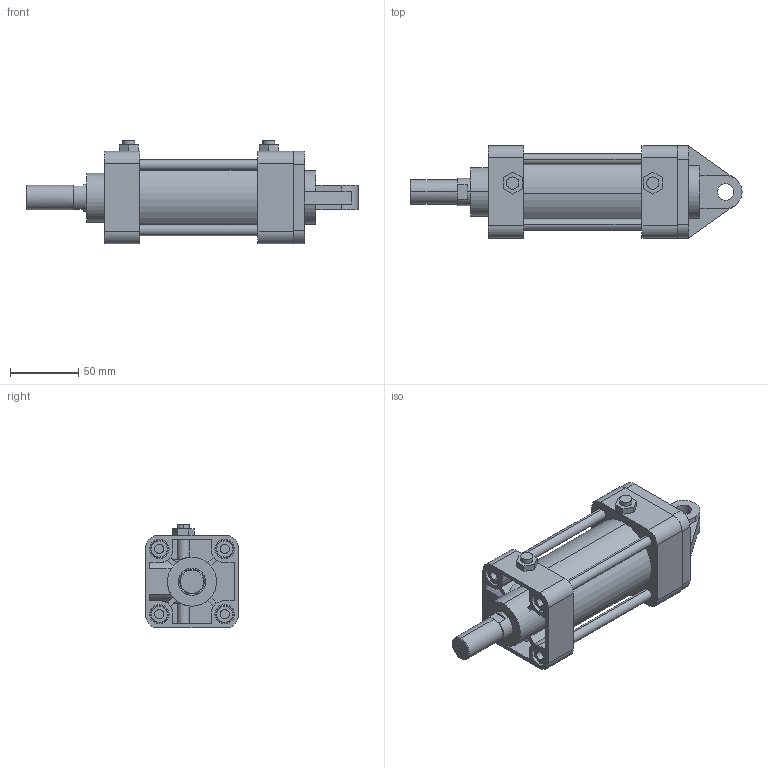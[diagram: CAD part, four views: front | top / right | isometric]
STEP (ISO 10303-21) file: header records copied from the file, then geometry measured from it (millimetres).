
FILE_DESCRIPTION (( 'STEP AP203' ), '1' );
FILE_NAME ('KG2-50-50-C.STEP', '2016-04-01T08:12:13', ( '' ), ( '' ), 'SwSTEP 2.0', 'SolidWorks 2014', '' );
FILE_SCHEMA (( 'CONFIG_CONTROL_DESIGN' ));
Length unit declared in the file: millimetre
Products named in the file (7): K-50-C; KG2-50-50-C; KGLH2-50-50; KG2-50-After
Assembly tree (16 placements, depth 2):
  KG2-50-50-C
    KG2-50-After
    KGLH2-50-50
    (unnamed)
    (unnamed)  x4
    (unnamed)  x8
    K-50-C
Bounding box: 244 x 68 x 76.3 mm (x, y, z)
Volume: 497892 mm3; surface area: 115473.7 mm2
Topology: 16 solids, 20 shells, 363 faces, 858 edges, 550 vertices
Faces by surface type: plane 161, cylinder 144, torus 32, cone 26
Entity records: 9355 total; most frequent: CARTESIAN_POINT 1702, DIRECTION 1454, ORIENTED_EDGE 1336, EDGE_CURVE 668, AXIS2_PLACEMENT_3D 536, VERTEX_POINT 440, LINE 382, VECTOR 382
